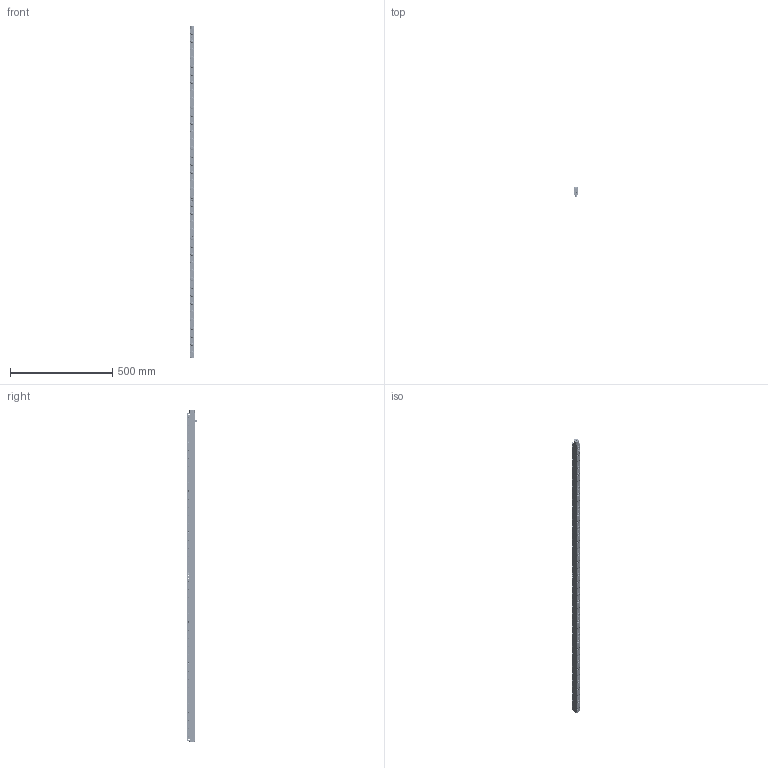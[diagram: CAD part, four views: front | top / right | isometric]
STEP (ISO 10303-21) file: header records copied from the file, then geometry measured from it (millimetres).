
FILE_DESCRIPTION(/* description */ ('EHR22-40'),/* implementation_level */ '2;1');
FILE_NAME(/* name */ 'S:\EASCN Vault\Designs\Standard Part\DIE LIFTERS\EHR\EHR- 3D step\EHR22 - 3D step complete serie\EHR22-40.stp',/* time_stamp */ '2019-10-29T13:13:48+08:00',/* author */ ('yue.yang'),/* organization */ (''),/* preprocessor_version */ 'ST-DEVELOPER v17',/* originating_system */ 'Autodesk Inventor 2019',/* authorisation */ '');
FILE_SCHEMA (('AUTOMOTIVE_DESIGN { 1 0 10303 214 3 1 1 }'));
Products named in the file (2): EHR22-40; EHR22-40_Substitute_1
Assembly tree (1 placements, depth 2):
  EHR22-40
    EHR22-40_Substitute_1
Bounding box: 21.8 x 48.05 x 1622 mm (x, y, z)
Volume: 996772.2 mm3; surface area: 407853.1 mm2
Topology: 138 solids, 138 shells, 2213 faces, 6236 edges, 4333 vertices
Faces by surface type: cylinder 769, plane 524, cone 470, torus 368, sphere 82
Full cylindrical faces by diameter (mm): 2.459 x16, 3 x9, 3.2 x8, 4 x20, 5 x120, 6 x50, 7.5 x2, 8.566 x1, 10 x11, 11 x40, 12.5 x80, 13.4 x40, 13.8 x40, 15.95 x80, 16 x80
Entity records: 80903 total; most frequent: CARTESIAN_POINT 18031, DIRECTION 14049, ORIENTED_EDGE 12340, AXIS2_PLACEMENT_3D 6259, EDGE_CURVE 6170, VERTEX_POINT 4333, CIRCLE 4043, EDGE_LOOP 2615
